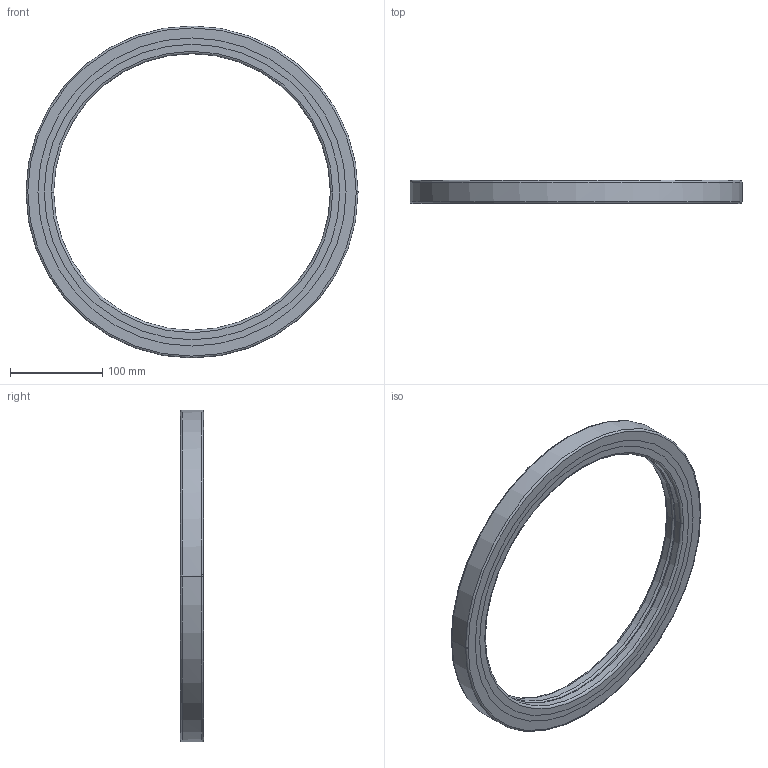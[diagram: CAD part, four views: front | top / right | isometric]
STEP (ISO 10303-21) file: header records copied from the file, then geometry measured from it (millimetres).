
FILE_DESCRIPTION(('no description'),'unknown implementation level');
FILE_NAME('CRBB30025_83.stp',' ',('HIWIN GmbH'),('CADClick - KiM GmbH - www.kimweb.de'),'unknown preprocess','ACIS','unknown authorization');
FILE_SCHEMA(('automotive_design'));
Length unit declared in the file: millimetre
Products named in the file (5): CRBB30025_1; CRBB30025_2; CRBB30025_3; CRBB30025_4; CRBB30025
Bounding box: 360 x 25 x 360 mm (x, y, z)
Volume: 623743.8 mm3; surface area: 201540.5 mm2
Topology: 5 solids, 5 shells, 54 faces, 120 edges, 76 vertices
Faces by surface type: torus 24, cylinder 20, plane 10
Entity records: 3096 total; most frequent: DIRECTION 338, STYLED_ITEM 255, PRESENTATION_STYLE_ASSIGNMENT 255, CARTESIAN_POINT 255, COLOUR_RGB 255, ORIENTED_EDGE 240, AXIS2_PLACEMENT_3D 159, EDGE_CURVE 120
